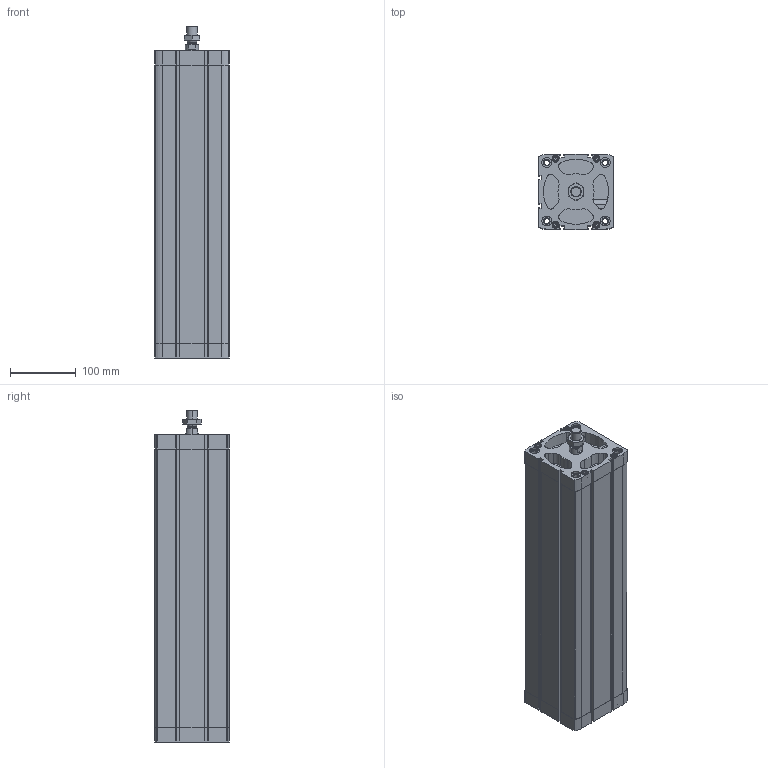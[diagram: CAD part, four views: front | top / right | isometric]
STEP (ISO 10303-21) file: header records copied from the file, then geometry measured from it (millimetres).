
FILE_DESCRIPTION (( 'STEP AP203' ), '1' );
FILE_NAME ('CCN100-400M.STEP', '2020-06-05T18:10:36', ( '' ), ( '' ), 'SwSTEP 2.0', 'SolidWorks 2019', '' );
FILE_SCHEMA (( 'CONFIG_CONTROL_DESIGN' ));
Length unit declared in the file: millimetre
Products named in the file (1): CCN100-400M
Bounding box: 113.5 x 113.5 x 504.8 mm (x, y, z)
Volume: 2588727.8 mm3; surface area: 542672 mm2
Topology: 3 solids, 3 shells, 648 faces, 1673 edges, 1068 vertices
Faces by surface type: plane 292, cylinder 272, cone 80, torus 4
Entity records: 21246 total; most frequent: CARTESIAN_POINT 4984, DIRECTION 3541, ORIENTED_EDGE 3314, EDGE_CURVE 1657, AXIS2_PLACEMENT_3D 1319, VERTEX_POINT 1068, LINE 903, VECTOR 903
